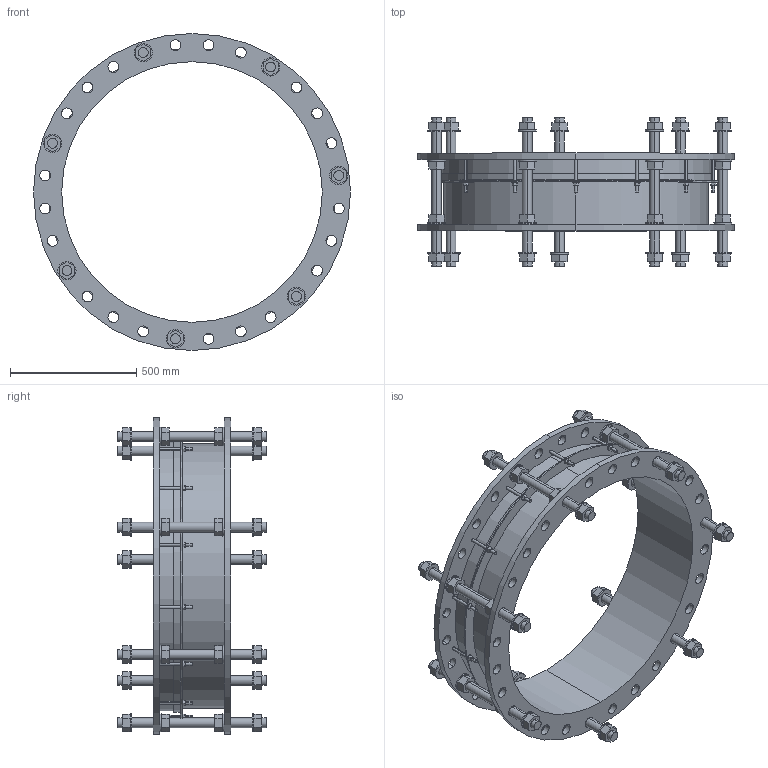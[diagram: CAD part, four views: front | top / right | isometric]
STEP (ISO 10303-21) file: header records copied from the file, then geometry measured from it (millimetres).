
FILE_DESCRIPTION((''),'2;1');
FILE_NAME('YF2_DJ_BIM_ASM','2020-11-30T',('mfairey'),('Glynwed Pipe Systems'),'CREO PARAMETRIC BY PTC INC, 2016130','CREO PARAMETRIC BY PTC INC, 2016130','');
FILE_SCHEMA(('CONFIG_CONTROL_DESIGN'));
Length unit declared in the file: millimetre
Products named in the file (3): DJ_AF0; TIE_BOLT_BIM; YF2_DJ_BIM_ASM
Assembly tree (8 placements, depth 2):
  YF2_DJ_BIM_ASM
    DJ_AF0
    TIE_BOLT_BIM  x7
Bounding box: 1255 x 590 x 1255 mm (x, y, z)
Volume: 35761792.4 mm3; surface area: 4698240.5 mm2
Topology: 8 solids, 8 shells, 762 faces, 1866 edges, 1234 vertices
Faces by surface type: plane 412, cylinder 346, cone 4
Entity records: 14657 total; most frequent: CARTESIAN_POINT 3355, DIRECTION 2448, ORIENTED_EDGE 2220, EDGE_CURVE 1110, AXIS2_PLACEMENT_3D 940, VERTEX_POINT 730, EDGE_LOOP 610, VECTOR 568
